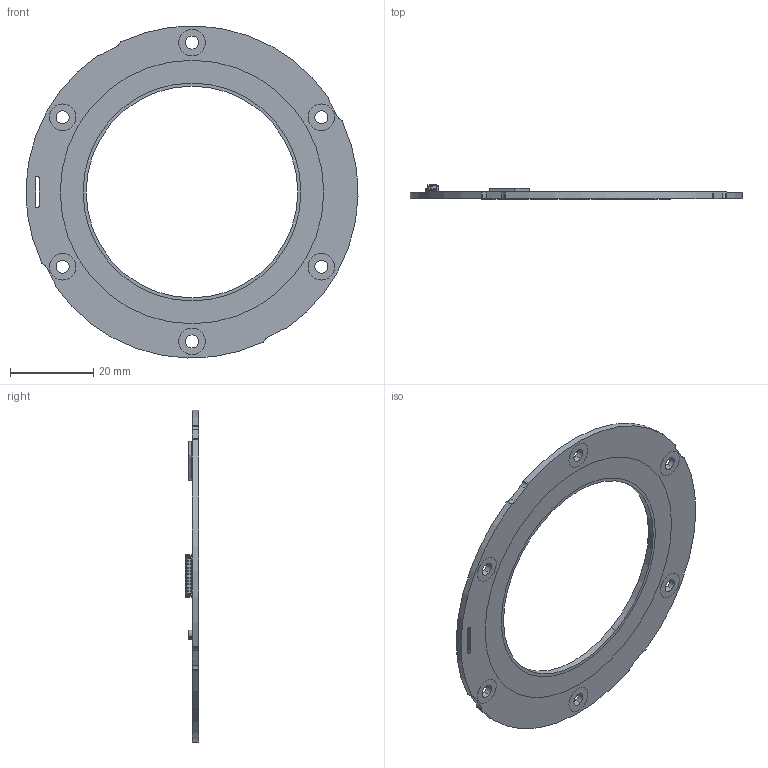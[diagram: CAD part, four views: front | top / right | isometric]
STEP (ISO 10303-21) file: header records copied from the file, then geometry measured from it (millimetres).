
FILE_DESCRIPTION (( 'STEP AP214' ), '1' );
FILE_NAME ('IRS-080_rev01.STEP', '2023-11-07T17:59:56', ( '' ), ( '' ), 'SwSTEP 2.0', 'SolidWorks 2021', '' );
FILE_SCHEMA (( 'AUTOMOTIVE_DESIGN' ));
Length unit declared in the file: millimetre
Products named in the file (1): IRS-080_rev01
Bounding box: 79.97 x 3.32 x 79.97 mm (x, y, z)
Volume: 4741.1 mm3; surface area: 6920.9 mm2
Topology: 15 solids, 15 shells, 1801 faces, 4706 edges, 2829 vertices
Faces by surface type: plane 809, cylinder 693, bspline 299
Entity records: 76934 total; most frequent: CARTESIAN_POINT 14747, ORIENTED_EDGE 9190, DIRECTION 8368, EDGE_CURVE 4595, LINE 2956, VECTOR 2956, VERTEX_POINT 2829, AXIS2_PLACEMENT_3D 2706
